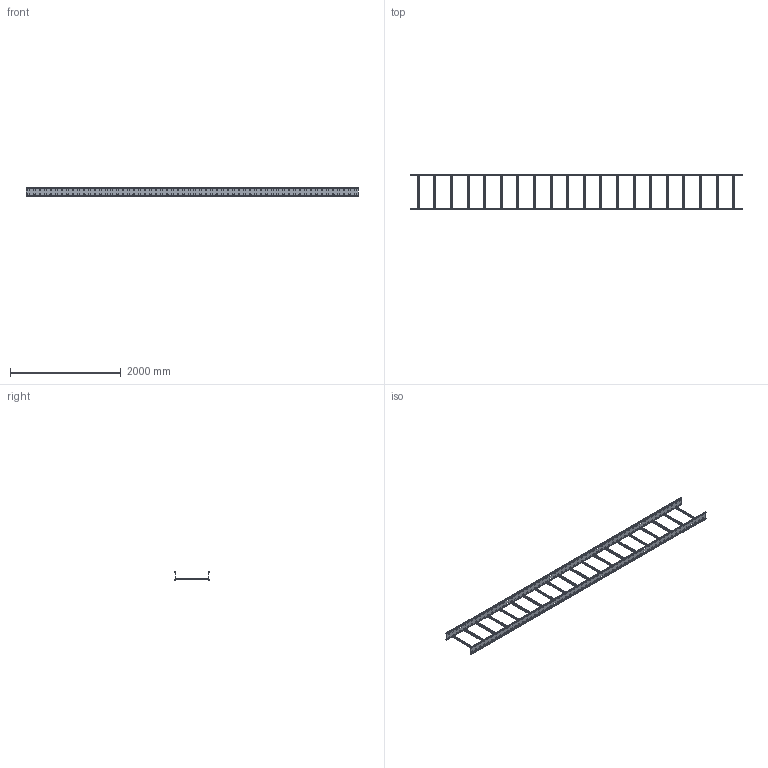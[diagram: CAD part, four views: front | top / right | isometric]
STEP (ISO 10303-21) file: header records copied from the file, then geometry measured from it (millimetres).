
FILE_DESCRIPTION(('Creo Elements/Direct Modeling STEP Export'),'2;1');
FILE_NAME('WP15-60.stp','2016-05-13T13:30:46',(''),(''),'PTC Creo Elements/Direct Modeling STEP processor for AP214 (Solid Model)','PTC Creo Elements/Direct Modeling 19.0C 15-Aug-2015 (C) Parametric Technology GmbH','');
FILE_SCHEMA(('AUTOMOTIVE_DESIGN { 1 0 10303 214 1 1 1 1 }'));
Length unit declared in the file: millimetre
Products named in the file (3): WPH150; KHA8-06.8; WP15-60-HDG
Assembly tree (22 placements, depth 2):
  WP15-60-HDG
    KHA8-06.8  x20
    WPH150  x2
Bounding box: 6000 x 650 x 150 mm (x, y, z)
Volume: 6065391.3 mm3; surface area: 7406242.3 mm2
Topology: 22 solids, 22 shells, 4012 faces, 11904 edges, 7936 vertices
Faces by surface type: plane 2452, cylinder 1560
Entity records: 25415 total; most frequent: ORIENTED_EDGE 4452, CARTESIAN_POINT 4395, DIRECTION 3934, EDGE_CURVE 2226, VECTOR 1888, LINE 1888, VERTEX_POINT 1484, EDGE_LOOP 1112
